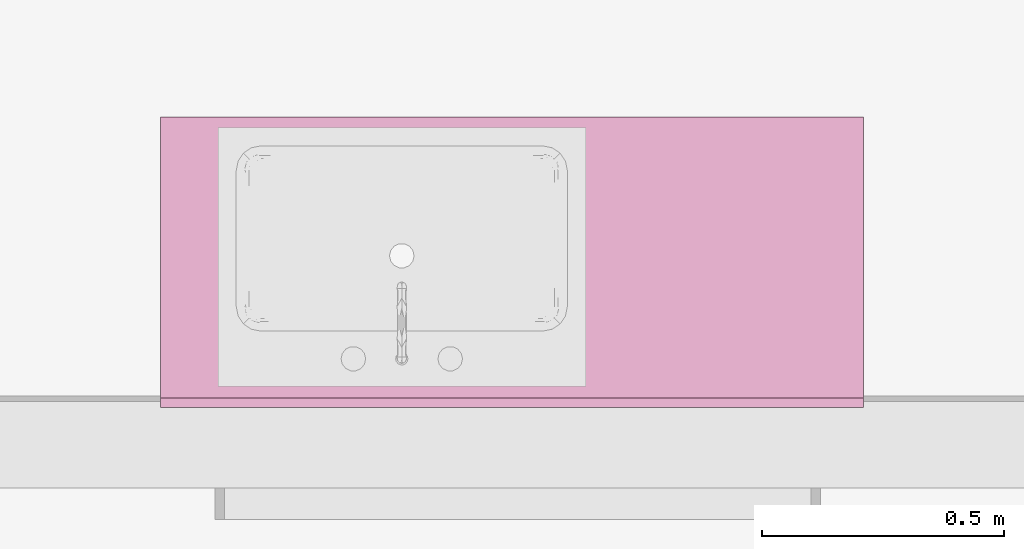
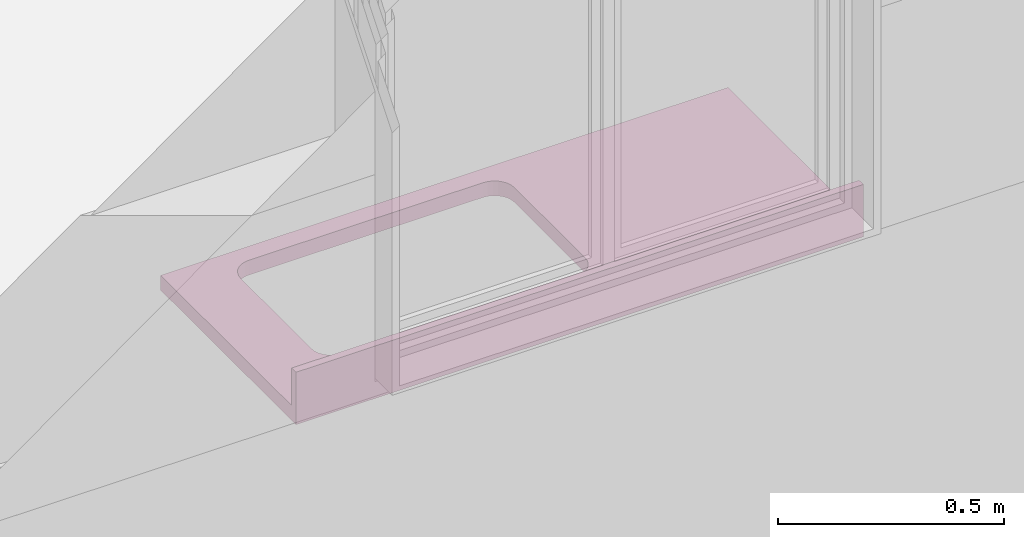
# One storey, part 9 of 10: 1 furnishing, 1 opening.
"""IFC2X3 building model written with IfcOpenShell, lengths in metres."""

from ifc_helpers import new_model, entity, si_unit, converted_unit, derived_unit, direction, frame, frame_2d, origin, place, context, subcontext, project, spatial, polyline, circle_curve, parameter, trimmed, segment, composite_curve, outline, extrude, source, transform, mapped, material, type_object, type_shapes, element, save


model = new_model("IFC2X3")

# Units and contexts
model_context = context("Model", 3, precision=1e-05, world=origin(), true_north=direction((6.12303176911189e-17, 1.0)))
body_context = subcontext(model_context, "Body", "Model", "MODEL_VIEW")
ifc_project = project(units=[si_unit("LENGTHUNIT", "METRE"), si_unit("AREAUNIT", "SQUARE_METRE"), si_unit("VOLUMEUNIT", "CUBIC_METRE"), converted_unit("PLANEANGLEUNIT", "DEGREE", entity("IfcRatioMeasure", 0.0174532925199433), si_unit("PLANEANGLEUNIT", "RADIAN"), dimensions=[0, 0, 0, 0, 0, 0, 0]), si_unit("MASSUNIT", "GRAM", prefix="KILO"), derived_unit("MASSDENSITYUNIT", [(si_unit("MASSUNIT", "GRAM", prefix="KILO"), 1), (si_unit("LENGTHUNIT", "METRE"), -3)]), si_unit("TIMEUNIT", "SECOND"), si_unit("FREQUENCYUNIT", "HERTZ"), si_unit("THERMODYNAMICTEMPERATUREUNIT", "DEGREE_CELSIUS"), derived_unit("THERMALTRANSMITTANCEUNIT", [(si_unit("MASSUNIT", "GRAM", prefix="KILO"), 1), (si_unit("THERMODYNAMICTEMPERATUREUNIT", "KELVIN"), -1), (si_unit("TIMEUNIT", "SECOND"), -3)]), derived_unit("VOLUMETRICFLOWRATEUNIT", [(si_unit("LENGTHUNIT", "METRE"), 3), (si_unit("TIMEUNIT", "SECOND"), -1)]), si_unit("ELECTRICCURRENTUNIT", "AMPERE"), si_unit("ELECTRICVOLTAGEUNIT", "VOLT"), si_unit("POWERUNIT", "WATT"), si_unit("FORCEUNIT", "NEWTON", prefix="KILO"), si_unit("ILLUMINANCEUNIT", "LUX"), si_unit("LUMINOUSFLUXUNIT", "LUMEN"), si_unit("LUMINOUSINTENSITYUNIT", "CANDELA"), derived_unit("USERDEFINED", [(si_unit("MASSUNIT", "GRAM", prefix="KILO"), -1), (si_unit("LENGTHUNIT", "METRE"), -2), (si_unit("TIMEUNIT", "SECOND"), 3), (si_unit("LUMINOUSFLUXUNIT", "LUMEN"), 1)]), derived_unit("LINEARVELOCITYUNIT", [(si_unit("LENGTHUNIT", "METRE"), 1), (si_unit("TIMEUNIT", "SECOND"), -1)]), si_unit("PRESSUREUNIT", "PASCAL"), derived_unit("USERDEFINED", [(si_unit("LENGTHUNIT", "METRE"), -2), (si_unit("MASSUNIT", "GRAM", prefix="KILO"), 1), (si_unit("TIMEUNIT", "SECOND"), -2)])], contexts=[model_context])

# Site, building, storey, space
site_placement = place(None, origin())
site = spatial("IfcSite", under=ifc_project, at=site_placement, Name="Surface", CompositionType="ELEMENT")
building_placement = place(site_placement, origin())
building = spatial("IfcBuilding", under=site, at=building_placement, CompositionType="ELEMENT")
storey_placement = place(building_placement, origin())
storey = spatial("IfcBuildingStorey", under=building, at=storey_placement, Name="Nivel 0.0", CompositionType="ELEMENT", Elevation=0.0)
space_placement = place(storey_placement, origin())
space = spatial("IfcSpace", under=storey, at=space_placement, Name="2", CompositionType="ELEMENT", InteriorOrExteriorSpace="INTERNAL")

# Furnishing, opening
ifc_material = material(Name="Stone")
furniture_type = type_object("IfcFurnitureType", Name="Mesada 1.45m", material=ifc_material)
shared_shape = source(origin(), body_context, "Body", "SweptSolid", [
    extrude(outline(polyline([(-0.0605333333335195, -0.20635), (0.0810666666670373, -0.20635), (0.0810666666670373, -0.1873), (-0.0205333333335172, -0.1873), (-0.0205333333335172, 0.39365), (-0.0605333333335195, 0.39365), (-0.0605333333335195, -0.20635)])), frame((-1.20046229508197, -0.20635, 0.920533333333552), z_axis=(1.0, 0.0, 0.0), x_axis=(0.0, 0.0, 1.0)), (0.0, 0.0, 1.0), 1.4516246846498),
])
type_shapes(furniture_type, [shared_shape])
furnishing_placement = place(space_placement, frame((-1.04249274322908, -3.26428532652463, 0.0), z_axis=(0.0, 0.0, 1.0), x_axis=(-1.0, 0.0, 0.0)))
furnishing = element("IfcFurnishingElement", 1, at=furnishing_placement, inside=space, type_object=furniture_type, material=ifc_material, Name="M_Counter Top w Sink:Mesada 1.45m", ObjectType="M_Counter Top w Sink:Mesada 1.45m", context=body_context, shape_type="MappedRepresentation", body=[
    mapped(shared_shape, transform((0.0, 0.0, 0.0), scale=1.0)),
])
opening_placement = place(storey_placement, frame((-1.04249274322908, -3.26428532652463, 0.0)))
element("IfcOpeningElement", 2, at=opening_placement, cuts=furnishing, Name="M_Counter Top w Sink:Mesada 1.45m:1", ObjectType="Opening", context=body_context, shape_type="SweptSolid", body=[
    extrude(outline(composite_curve([segment(polyline([(-0.299399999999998, -0.207700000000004), (0.299400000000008, -0.207700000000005)]), True, "CONTINUOUS"), segment(trimmed(circle_curve(frame_2d((0.299400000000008, -0.156900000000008), x_axis=(-1.0, 0.0)), 0.050799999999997), [parameter(89.9999999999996)], [parameter(180.0)], True, "PARAMETER"), True, "CONTINUOUS"), segment(polyline([(0.350200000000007, -0.156900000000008), (0.350199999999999, 0.156899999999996)]), True, "CONTINUOUS"), segment(trimmed(circle_curve(frame_2d((0.299400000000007, 0.156899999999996), x_axis=(-1.0, 0.0)), 0.0507999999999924), [parameter(180.0)], [parameter(270.0)], True, "PARAMETER"), True, "CONTINUOUS"), segment(polyline([(0.299400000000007, 0.207699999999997), (-0.299400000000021, 0.207700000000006)]), True, "CONTINUOUS"), segment(trimmed(circle_curve(frame_2d((-0.299400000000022, 0.156900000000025), x_axis=(-1.0, 0.0)), 0.0507999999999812), [parameter(269.999999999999)], [parameter(360.0)], True, "PARAMETER"), True, "CONTINUOUS"), segment(polyline([(-0.350199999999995, 0.156900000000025), (-0.350200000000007, -0.156900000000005)]), True, "CONTINUOUS"), segment(trimmed(circle_curve(frame_2d((-0.299399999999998, -0.156900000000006), x_axis=(-1.0, 0.0)), 0.0508000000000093), [parameter(360.0)], [parameter(90.0000000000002)], True, "PARAMETER"), True, "CONTINUOUS")], self_intersect=False)), frame((0.247025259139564, 0.345000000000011, 0.860000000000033)), (0.0, 0.0, 1.0), 0.0400000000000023),
])

save(model, "model.ifc")
